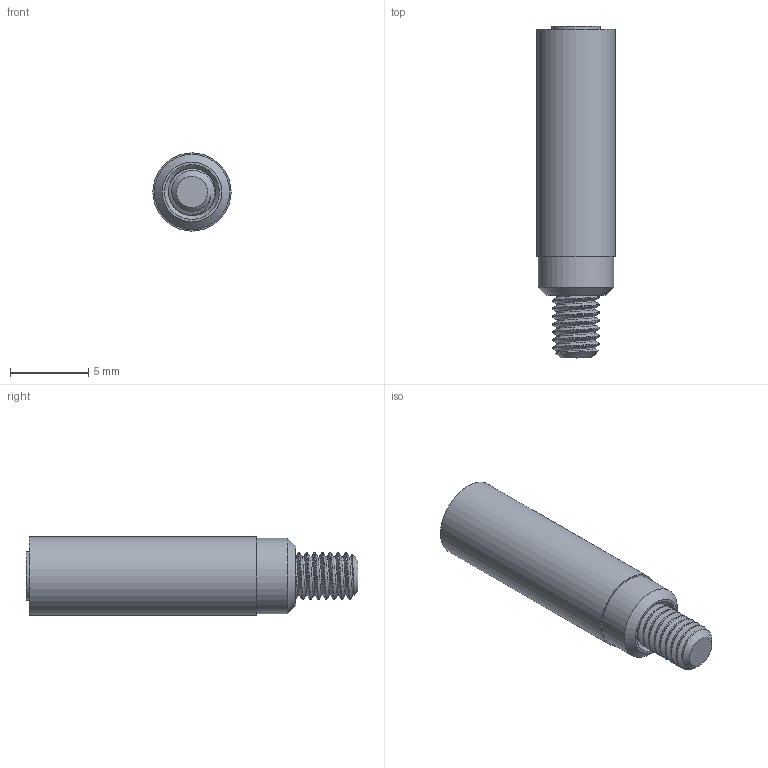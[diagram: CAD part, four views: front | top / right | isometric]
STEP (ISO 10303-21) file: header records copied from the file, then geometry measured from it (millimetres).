
FILE_DESCRIPTION (( 'STEP AP214' ), '1' );
FILE_NAME ('DAF-5.STEP', '2018-10-09T17:58:55', ( '' ), ( '' ), 'SwSTEP 2.0', 'SolidWorks 2017', '' );
FILE_SCHEMA (( 'AUTOMOTIVE_DESIGN' ));
Length unit declared in the file: millimetre
Products named in the file (1): DAF-5
Bounding box: 5 x 21.2 x 5 mm (x, y, z)
Volume: 344.2 mm3; surface area: 464.2 mm2
Topology: 2 solids, 2 shells, 105 faces, 270 edges, 180 vertices
Faces by surface type: plane 53, cylinder 40, cone 6, bspline 6
Full cylindrical faces by diameter (mm): 2.5 x6, 3.1 x1, 4.8 x1, 5 x1
Entity records: 9677 total; most frequent: CARTESIAN_POINT 6552, ORIENTED_EDGE 466, DIRECTION 341, EDGE_CURVE 233, VERTEX_POINT 159, VECTOR 129, LINE 129, EDGE_LOOP 116
